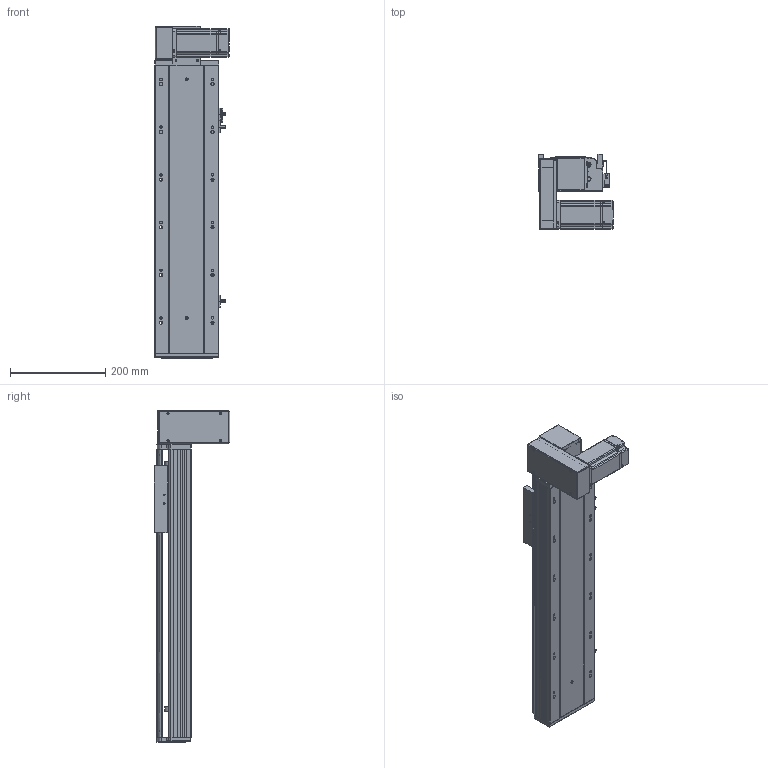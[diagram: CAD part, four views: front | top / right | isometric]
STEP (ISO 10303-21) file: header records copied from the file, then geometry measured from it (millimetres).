
FILE_DESCRIPTION (( 'STEP AP203' ), '1' );
FILE_NAME ('RY140-T-300-DL.SLDASM_350.step', '2021-03-01T06:05:30', ( '盈信电脑' ), ( '东莞市道滘镇水果街19号' ), 'SwSTEP 2.0', 'SolidWorks 2012', '' );
FILE_SCHEMA (( 'CONFIG_CONTROL_DESIGN' ));
Length unit declared in the file: millimetre
Products named in the file (18): RY140-T-300-DL.SLDASM_350; RY140-T翋肮謫裔啣; RY120-T主同步轮轴承压盖; 滅袉蝶18-10; RY140-T萇儂欶; RY120-T蹟翐M4; RY140-T萇儂假蚾啣; 侂狟400W侜督萇儂; 15; RY120-T肮祭湍揤踡輸2; RY120-T肮祭湍揤踡輸1; RY120外置感应片(140共用）; RY140-T翋肮祭謫盓傅釱; 覜茼ん672; RY140-T-300-DL倰第奻裔啣_350; RY140綴裔啣; RY140肮祭謫臏賑輸; RY140-T-300-DL倰第菁釱_350
Assembly tree (23 placements, depth 3):
  RY140-T-300-DL.SLDASM_350
    RY140-T-300-DL倰第菁釱_350
    RY140肮祭謫臏賑輸
    RY140-T-300-DL倰第奻裔啣_350
    RY140綴裔啣
    覜茼ん672  x3
    RY120外置感应片(140共用）
    RY120-T肮祭湍揤踡輸2
    RY120-T肮祭湍揤踡輸1
    RY140-T翋肮祭謫盓傅釱
    RY140-T萇儂假蚾啣
    侂狟400W侜督萇儂
      15
    RY120-T主同步轮轴承压盖
    RY120-T蹟翐M4  x4
    RY140-T萇儂欶
    滅袉蝶18-10  x2
    RY140-T翋肮謫裔啣
Bounding box: 157 x 158.5 x 696 mm (x, y, z)
Volume: 2439600.6 mm3; surface area: 890393.3 mm2
Topology: 22 solids, 22 shells, 2578 faces, 7050 edges, 4550 vertices
Faces by surface type: plane 1385, cylinder 915, cone 178, bspline 100
Entity records: 81656 total; most frequent: CARTESIAN_POINT 19989, ORIENTED_EDGE 12668, DIRECTION 11996, EDGE_CURVE 6334, VERTEX_POINT 4149, VECTOR 4106, LINE 4106, AXIS2_PLACEMENT_3D 3945
